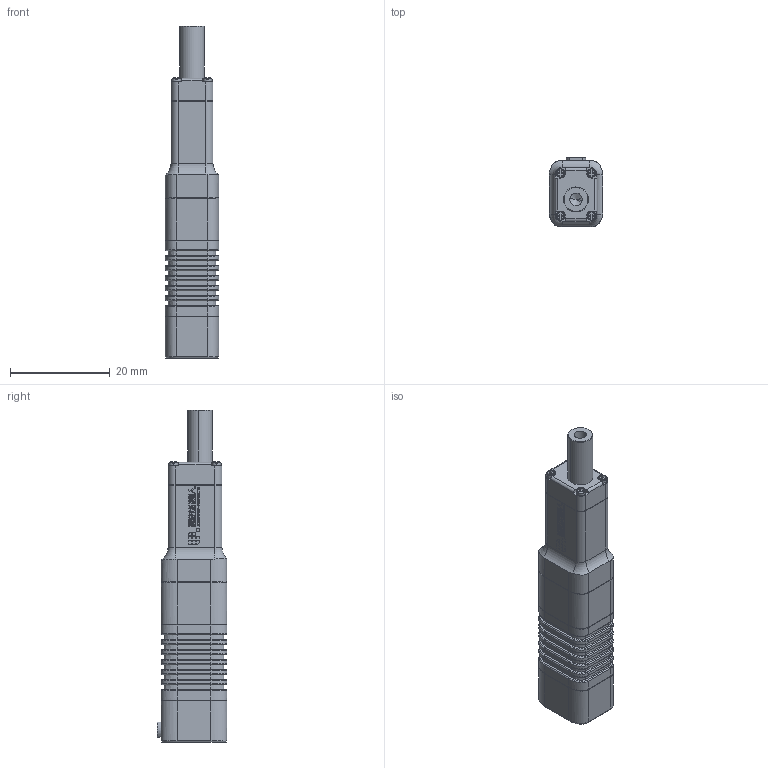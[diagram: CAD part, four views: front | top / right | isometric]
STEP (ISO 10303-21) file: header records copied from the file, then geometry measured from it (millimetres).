
FILE_DESCRIPTION (( 'STEP AP203' ), '1' );
FILE_NAME ('LA10-0x1D-1127-01.STEP', '2023-11-27T10:01:08', ( '' ), ( '' ), '' );
FILE_SCHEMA (( 'CONFIG_CONTROL_DESIGN' ));
Products named in the file (3): 掛极^LA10-0x1D; LA10-0x1D-1127-01; exA820109-015祥凄詩杶奪
Assembly tree (2 placements, depth 2):
  LA10-0x1D-1127-01
    exA820109-015祥凄詩杶奪
    掛极^LA10-0x1D
Bounding box: 10.8 x 14 x 66.5 mm (x, y, z)
Volume: 6576.6 mm3; surface area: 3395.5 mm2
Topology: 2 solids, 2 shells, 1511 faces, 3944 edges, 2557 vertices
Faces by surface type: plane 819, bspline 556, cylinder 102, torus 20, cone 14
Entity records: 57291 total; most frequent: CARTESIAN_POINT 23641, ORIENTED_EDGE 7884, DIRECTION 5006, EDGE_CURVE 3942, LINE 2558, VECTOR 2558, VERTEX_POINT 2557, EDGE_LOOP 1633
